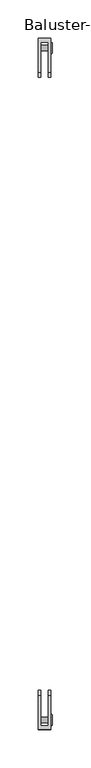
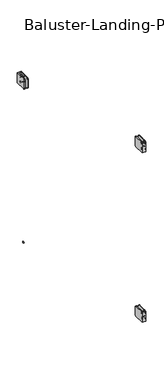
"""IFC4 building model written with IfcOpenShell, lengths in millimetres: railing geometry, Baluster-Landing-Panel-VIVA-BEACON-Lower : Standard_Glass."""

from ifc_helpers import new_model, si_unit, point, frame, origin, place, context, project, spatial, polyline, circle_curve, ellipse_curve, trimmed, outline, extrude, source, transform, mapped, element, save
from ifc_brep_helpers import plane_surface, cylinder_surface, revolved_surface, advanced_brep


def baluster_landing_panel_viva_beacon_lower_standard_glass_9d3ff82e(model_context):
    return source(origin(), model_context, "Body", "SolidModel", [
        extrude(outline(polyline([(-864.6905341, 973.286725), (-862.64357, 976.8321709), (-858.5496417, 976.8321709), (-856.5026775, 973.286725), (-858.5496417, 969.7412791), (-862.64357, 969.7412791), (-864.6905341, 973.286725)])), frame((46.904612, 0.0, 0.0), z_axis=(1.0, 0.0, 0.0), x_axis=(0.0, 1.0, 0.0)), (0.0, 0.0, 1.0), 1.4969696),
        advanced_brep(
        [(33.3375, -864.1420517, 973.286725), (33.3375, -857.0511599, 973.286725), (46.0375, -857.0511599, 973.286725), (46.0375, -864.1420517, 973.286725), (46.0375, -853.1888167, 973.286725), (46.0375, -868.0043949, 973.286725), (46.904612, -862.2526812, 973.286725), (46.904612, -858.9405304, 973.286725), (33.3375, -858.9405304, 973.286725), (33.3375, -862.2526812, 973.286725), (46.8723449, -868.0043949, 973.286725), (46.8723449, -853.1888167, 973.286725), (48.1536169, -854.4700888, 973.286725), (48.1536169, -866.7231229, 973.286725), (48.1536169, -856.2980103, 973.286725), (48.1536169, -864.8952014, 973.286725), (46.904612, -856.2980103, 973.286725), (46.904612, -864.8952014, 973.286725)],
        [
            (0, 1, circle_curve(frame((33.3375, -860.5966058, 973.286725), z_axis=(1.0, 0.0, 0.0), x_axis=(0.0, 1.0, 0.0)), 3.5454459)),
            (1, 2),
            (2, 3, circle_curve(frame((46.0375, -860.5966058, 973.286725), z_axis=(-1.0, 0.0, 0.0), x_axis=(0.0, 1.0, 0.0)), 3.5454459)),
            (3, 0),
            (1, 0, circle_curve(frame((33.3375, -860.5966058, 973.286725), z_axis=(1.0, 0.0, 0.0), x_axis=(0.0, 1.0, 0.0)), 3.5454459)),
            (3, 2, circle_curve(frame((46.0375, -860.5966058, 973.286725), z_axis=(-1.0, 0.0, 0.0), x_axis=(0.0, 1.0, 0.0)), 3.5454459)),
            (2, 4),
            (4, 5, circle_curve(frame((46.0375, -860.5966058, 973.286725), z_axis=(-1.0, 0.0, 0.0), x_axis=(0.0, 1.0, 0.0)), 7.4077891)),
            (5, 3),
            (5, 4, circle_curve(frame((46.0375, -860.5966058, 973.286725), z_axis=(-1.0, 0.0, 0.0), x_axis=(0.0, 1.0, 0.0)), 7.4077891)),
            (6, 7, circle_curve(frame((46.904612, -860.5966058, 973.286725), z_axis=(1.0, 0.0, 0.0), x_axis=(0.0, 1.0, 0.0)), 1.6560754)),
            (7, 8),
            (8, 9, circle_curve(frame((33.3375, -860.5966058, 973.286725), z_axis=(-1.0, 0.0, 0.0), x_axis=(0.0, 1.0, 0.0)), 1.6560754)),
            (9, 6),
            (7, 6, circle_curve(frame((46.904612, -860.5966058, 973.286725), z_axis=(1.0, 0.0, 0.0), x_axis=(0.0, 1.0, 0.0)), 1.6560754)),
            (9, 8, circle_curve(frame((33.3375, -860.5966058, 973.286725), z_axis=(-1.0, 0.0, 0.0), x_axis=(0.0, 1.0, 0.0)), 1.6560754)),
            (10, 11, circle_curve(frame((46.8723449, -860.5966058, 973.286725), z_axis=(1.0, 0.0, 0.0), x_axis=(0.0, 1.0, 0.0)), 7.4077891)),
            (11, 12, circle_curve(frame((46.8723449, -854.4700888, 973.286725), z_axis=(0.0, 0.0, -1.0), x_axis=(0.0, 1.0, 0.0)), 1.281272)),
            (12, 13, circle_curve(frame((48.1536169, -860.5966058, 973.286725), z_axis=(-1.0, 0.0, 0.0), x_axis=(0.0, 1.0, 0.0)), 6.1265171)),
            (13, 10, circle_curve(frame((46.8723449, -866.7231229, 973.286725), z_axis=(0.0, 0.0, -1.0), x_axis=(0.0, -1.0, 0.0)), 1.281272)),
            (11, 10, circle_curve(frame((46.8723449, -860.5966058, 973.286725), z_axis=(1.0, 0.0, 0.0), x_axis=(0.0, 1.0, 0.0)), 7.4077891)),
            (13, 12, circle_curve(frame((48.1536169, -860.5966058, 973.286725), z_axis=(-1.0, 0.0, 0.0), x_axis=(0.0, 1.0, 0.0)), 6.1265171)),
            (12, 14),
            (14, 15, circle_curve(frame((48.1536169, -860.5966058, 973.286725), z_axis=(-1.0, 0.0, 0.0), x_axis=(0.0, 1.0, 0.0)), 4.2985955)),
            (15, 13),
            (15, 14, circle_curve(frame((48.1536169, -860.5966058, 973.286725), z_axis=(-1.0, 0.0, 0.0), x_axis=(0.0, 1.0, 0.0)), 4.2985955)),
            (4, 11),
            (10, 5),
            (8, 1),
            (0, 9),
            (14, 16),
            (16, 17, circle_curve(frame((46.904612, -860.5966058, 973.286725), z_axis=(-1.0, 0.0, 0.0), x_axis=(0.0, 1.0, 0.0)), 4.2985955)),
            (17, 15),
            (17, 16, circle_curve(frame((46.904612, -860.5966058, 973.286725), z_axis=(-1.0, 0.0, 0.0), x_axis=(0.0, 1.0, 0.0)), 4.2985955)),
            (16, 7),
            (6, 17),
        ],
        [
            cylinder_surface(frame((42.5407669, -860.5966058, 973.286725), z_axis=(-1.0, 0.0, 0.0), x_axis=(0.0, 1.0, 0.0)), 3.5454459),
            plane_surface(frame((46.0375, -860.5966058, 973.286725), z_axis=(-1.0, 0.0, 0.0), x_axis=(0.0, 1.0, 0.0))),
            revolved_surface(polyline([(33.3375, -858.9405304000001, 973.286725), (46.904612, -858.9405304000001, 973.286725)]), (42.5407669, -860.5966058, 973.286725), (-1.0, 0.0, 0.0)),
            revolved_surface(trimmed(ellipse_curve(frame((46.8723449, -854.4700888, 973.286725), z_axis=(0.0, 0.0, 1.0), x_axis=(0.0, 1.0, 0.0)), 1.281272, 1.281272), [point((48.1536169, -854.4700888, 973.286725))], [point((46.8723449, -853.1888167, 973.286725))], True, "CARTESIAN"), (42.5407669, -860.5966058, 973.286725), (-1.0, 0.0, 0.0)),
            plane_surface(frame((48.1536169, -860.5966058, 973.286725), z_axis=(1.0, 0.0, 0.0), x_axis=(0.0, 1.0, 0.0))),
            cylinder_surface(frame((42.5407669, -860.5966058, 973.286725), z_axis=(-1.0, 0.0, 0.0), x_axis=(0.0, 1.0, 0.0)), 7.4077891),
            plane_surface(frame((33.3375, -860.5966058, 973.286725), z_axis=(-1.0, 0.0, 0.0), x_axis=(0.0, 1.0, 0.0))),
            revolved_surface(polyline([(46.904612, -856.2980103, 973.286725), (48.1536169, -856.2980103, 973.286725)]), (42.5407669, -860.5966058, 973.286725), (-1.0, 0.0, 0.0)),
            plane_surface(frame((46.904612, -860.5966058, 973.286725), z_axis=(1.0, 0.0, 0.0), x_axis=(0.0, 1.0, 0.0))),
        ],
        [
            (0, [[1, 2, 3, 4]]),
            (0, [[5, -4, 6, -2]]),
            (1, [[-3, 7, 8, 9]]),
            (1, [[-6, -9, 10, -7]]),
            (2, [[11, 12, 13, 14]]),
            (2, [[15, -14, 16, -12]]),
            (3, [[17, 18, 19, 20]]),
            (3, [[21, -20, 22, -18]]),
            (4, [[-19, 23, 24, 25]]),
            (4, [[-22, -25, 26, -23]]),
            (5, [[-8, 27, -17, 28]]),
            (5, [[-10, -28, -21, -27]]),
            (6, [[-13, 29, -1, 30]]),
            (6, [[-16, -30, -5, -29]]),
            (7, [[-24, 31, 32, 33]]),
            (7, [[-26, -33, 34, -31]]),
            (8, [[-32, 35, -11, 36]]),
            (8, [[-34, -36, -15, -35]]),
        ],
    ),
        advanced_brep(
        [(33.3375, -864.1420517, 948.680475), (33.3375, -857.0511599, 948.680475), (46.0375, -857.0511599, 948.680475), (46.0375, -864.1420517, 948.680475), (46.0375, -853.1888167, 948.680475), (46.0375, -868.0043949, 948.680475), (46.904612, -862.2526812, 948.680475), (46.904612, -858.9405304, 948.680475), (33.3375, -858.9405304, 948.680475), (33.3375, -862.2526812, 948.680475), (46.8723449, -868.0043949, 948.680475), (46.8723449, -853.1888167, 948.680475), (48.1536169, -854.4700888, 948.680475), (48.1536169, -866.7231229, 948.680475), (48.1536169, -856.2980103, 948.680475), (48.1536169, -864.8952014, 948.680475), (46.904612, -856.2980103, 948.680475), (46.904612, -864.8952014, 948.680475)],
        [
            (0, 1, circle_curve(frame((33.3375, -860.5966058, 948.680475), z_axis=(1.0, 0.0, 0.0), x_axis=(0.0, 1.0, 0.0)), 3.5454459)),
            (1, 2),
            (2, 3, circle_curve(frame((46.0375, -860.5966058, 948.680475), z_axis=(-1.0, 0.0, 0.0), x_axis=(0.0, 1.0, 0.0)), 3.5454459)),
            (3, 0),
            (1, 0, circle_curve(frame((33.3375, -860.5966058, 948.680475), z_axis=(1.0, 0.0, 0.0), x_axis=(0.0, 1.0, 0.0)), 3.5454459)),
            (3, 2, circle_curve(frame((46.0375, -860.5966058, 948.680475), z_axis=(-1.0, 0.0, 0.0), x_axis=(0.0, 1.0, 0.0)), 3.5454459)),
            (2, 4),
            (4, 5, circle_curve(frame((46.0375, -860.5966058, 948.680475), z_axis=(-1.0, 0.0, 0.0), x_axis=(0.0, 1.0, 0.0)), 7.4077891)),
            (5, 3),
            (5, 4, circle_curve(frame((46.0375, -860.5966058, 948.680475), z_axis=(-1.0, 0.0, 0.0), x_axis=(0.0, 1.0, 0.0)), 7.4077891)),
            (6, 7, circle_curve(frame((46.904612, -860.5966058, 948.680475), z_axis=(1.0, 0.0, 0.0), x_axis=(0.0, 1.0, 0.0)), 1.6560754)),
            (7, 8),
            (8, 9, circle_curve(frame((33.3375, -860.5966058, 948.680475), z_axis=(-1.0, 0.0, 0.0), x_axis=(0.0, 1.0, 0.0)), 1.6560754)),
            (9, 6),
            (7, 6, circle_curve(frame((46.904612, -860.5966058, 948.680475), z_axis=(1.0, 0.0, 0.0), x_axis=(0.0, 1.0, 0.0)), 1.6560754)),
            (9, 8, circle_curve(frame((33.3375, -860.5966058, 948.680475), z_axis=(-1.0, 0.0, 0.0), x_axis=(0.0, 1.0, 0.0)), 1.6560754)),
            (10, 11, circle_curve(frame((46.8723449, -860.5966058, 948.680475), z_axis=(1.0, 0.0, 0.0), x_axis=(0.0, 1.0, 0.0)), 7.4077891)),
            (11, 12, circle_curve(frame((46.8723449, -854.4700888, 948.680475), z_axis=(0.0, 0.0, -1.0), x_axis=(0.0, 1.0, 0.0)), 1.281272)),
            (12, 13, circle_curve(frame((48.1536169, -860.5966058, 948.680475), z_axis=(-1.0, 0.0, 0.0), x_axis=(0.0, 1.0, 0.0)), 6.1265171)),
            (13, 10, circle_curve(frame((46.8723449, -866.7231229, 948.680475), z_axis=(0.0, 0.0, -1.0), x_axis=(0.0, -1.0, 0.0)), 1.281272)),
            (11, 10, circle_curve(frame((46.8723449, -860.5966058, 948.680475), z_axis=(1.0, 0.0, 0.0), x_axis=(0.0, 1.0, 0.0)), 7.4077891)),
            (13, 12, circle_curve(frame((48.1536169, -860.5966058, 948.680475), z_axis=(-1.0, 0.0, 0.0), x_axis=(0.0, 1.0, 0.0)), 6.1265171)),
            (12, 14),
            (14, 15, circle_curve(frame((48.1536169, -860.5966058, 948.680475), z_axis=(-1.0, 0.0, 0.0), x_axis=(0.0, 1.0, 0.0)), 4.2985955)),
            (15, 13),
            (15, 14, circle_curve(frame((48.1536169, -860.5966058, 948.680475), z_axis=(-1.0, 0.0, 0.0), x_axis=(0.0, 1.0, 0.0)), 4.2985955)),
            (8, 1),
            (0, 9),
            (4, 11),
            (10, 5),
            (14, 16),
            (16, 17, circle_curve(frame((46.904612, -860.5966058, 948.680475), z_axis=(-1.0, 0.0, 0.0), x_axis=(0.0, 1.0, 0.0)), 4.2985955)),
            (17, 15),
            (17, 16, circle_curve(frame((46.904612, -860.5966058, 948.680475), z_axis=(-1.0, 0.0, 0.0), x_axis=(0.0, 1.0, 0.0)), 4.2985955)),
            (16, 7),
            (6, 17),
        ],
        [
            cylinder_surface(frame((42.5407669, -860.5966058, 948.680475), z_axis=(-1.0, 0.0, 0.0), x_axis=(0.0, 1.0, 0.0)), 3.5454459),
            plane_surface(frame((46.0375, -860.5966058, 948.680475), z_axis=(-1.0, 0.0, 0.0), x_axis=(0.0, 1.0, 0.0))),
            revolved_surface(polyline([(33.3375, -858.9405304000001, 948.680475), (46.904612, -858.9405304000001, 948.680475)]), (42.5407669, -860.5966058, 948.680475), (-1.0, 0.0, 0.0)),
            revolved_surface(trimmed(ellipse_curve(frame((46.8723449, -854.4700888, 948.680475), z_axis=(0.0, 0.0, 1.0), x_axis=(0.0, 1.0, 0.0)), 1.281272, 1.281272), [point((48.1536169, -854.4700888, 948.680475))], [point((46.8723449, -853.1888167, 948.680475))], True, "CARTESIAN"), (42.5407669, -860.5966058, 948.680475), (-1.0, 0.0, 0.0)),
            plane_surface(frame((48.1536169, -860.5966058, 948.680475), z_axis=(1.0, 0.0, 0.0), x_axis=(0.0, 1.0, 0.0))),
            plane_surface(frame((33.3375, -860.5966058, 948.680475), z_axis=(-1.0, 0.0, 0.0), x_axis=(0.0, 1.0, 0.0))),
            cylinder_surface(frame((42.5407669, -860.5966058, 948.680475), z_axis=(-1.0, 0.0, 0.0), x_axis=(0.0, 1.0, 0.0)), 7.4077891),
            revolved_surface(polyline([(46.904612, -856.2980103, 948.680475), (48.1536169, -856.2980103, 948.680475)]), (42.5407669, -860.5966058, 948.680475), (-1.0, 0.0, 0.0)),
            plane_surface(frame((46.904612, -860.5966058, 948.680475), z_axis=(1.0, 0.0, 0.0), x_axis=(0.0, 1.0, 0.0))),
        ],
        [
            (0, [[1, 2, 3, 4]]),
            (0, [[5, -4, 6, -2]]),
            (1, [[-3, 7, 8, 9]]),
            (1, [[-6, -9, 10, -7]]),
            (2, [[11, 12, 13, 14]]),
            (2, [[15, -14, 16, -12]]),
            (3, [[17, 18, 19, 20]]),
            (3, [[21, -20, 22, -18]]),
            (4, [[-19, 23, 24, 25]]),
            (4, [[-22, -25, 26, -23]]),
            (5, [[-13, 27, -1, 28]]),
            (5, [[-16, -28, -5, -27]]),
            (6, [[-8, 29, -17, 30]]),
            (6, [[-10, -30, -21, -29]]),
            (7, [[-24, 31, 32, 33]]),
            (7, [[-26, -33, 34, -31]]),
            (8, [[-32, 35, -11, 36]]),
            (8, [[-34, -36, -15, -35]]),
        ],
    ),
        extrude(outline(polyline([(-864.6905341, 948.680475), (-862.64357, 952.2259209), (-858.5496417, 952.2259209), (-856.5026775, 948.680475), (-858.5496417, 945.1350291), (-862.64357, 945.1350291), (-864.6905341, 948.680475)])), frame((46.904612, 0.0, 0.0), z_axis=(1.0, 0.0, 0.0), x_axis=(0.0, 1.0, 0.0)), (0.0, 0.0, 1.0), 1.4969696),
        advanced_brep(
        [(46.0375, -873.2299506, 983.2086), (46.0375, -873.2299506, 938.7586), (46.0375, -828.7799506, 938.7586), (46.0375, -822.4299506, 945.1086), (46.0375, -822.4299506, 976.8586), (46.0375, -828.7799506, 983.2086), (30.1625, -873.2299506, 983.2086), (30.1625, -828.7799506, 983.2086), (30.1625, -822.4299506, 976.8586), (30.1625, -822.4299506, 945.1086), (30.1625, -828.7799506, 938.7586), (30.1625, -873.2299506, 938.7586), (33.3375, -828.7799506, 938.7586), (33.3375, -868.5118702, 938.7586), (42.8625, -868.5118702, 938.7586), (42.8625, -828.7799506, 938.7586), (33.3375, -868.5118702, 983.2086), (42.8625, -868.5118702, 983.2086), (42.8625, -828.7799506, 983.2086), (42.8625, -822.4299506, 976.8586), (42.8625, -822.4299506, 945.1086), (33.3375, -822.4299506, 945.1086), (33.3375, -822.4299506, 976.8586), (33.3375, -828.7799506, 983.2086)],
        [
            (0, 1),
            (1, 2),
            (2, 3, circle_curve(frame((46.0375, -828.7799506, 945.1086), z_axis=(1.0, 0.0, 0.0), x_axis=(0.0, 1.0, 0.0)), 6.35)),
            (3, 4),
            (4, 5, circle_curve(frame((46.0375, -828.7799506, 976.8586), z_axis=(1.0, 0.0, 0.0), x_axis=(0.0, 1.0, 0.0)), 6.35)),
            (5, 0),
            (6, 7),
            (7, 8, circle_curve(frame((30.1625, -828.7799506, 976.8586), z_axis=(-1.0, 0.0, 0.0), x_axis=(0.0, 1.0, 0.0)), 6.35)),
            (8, 9),
            (9, 10, circle_curve(frame((30.1625, -828.7799506, 945.1086), z_axis=(-1.0, 0.0, 0.0), x_axis=(0.0, 1.0, 0.0)), 6.35)),
            (10, 11),
            (11, 6),
            (0, 6),
            (11, 1),
            (10, 12),
            (12, 13),
            (13, 14),
            (14, 15),
            (15, 2),
            (13, 16),
            (16, 17),
            (17, 14),
            (17, 18),
            (18, 19, circle_curve(frame((42.8625, -828.7799506, 976.8586), z_axis=(-1.0, 0.0, 0.0), x_axis=(0.0, 1.0, 0.0)), 6.35)),
            (19, 20),
            (20, 15, circle_curve(frame((42.8625, -828.7799506, 945.1086), z_axis=(-1.0, 0.0, 0.0), x_axis=(0.0, 1.0, 0.0)), 6.35)),
            (12, 21, circle_curve(frame((33.3375, -828.7799506, 945.1086), z_axis=(1.0, 0.0, 0.0), x_axis=(0.0, 1.0, 0.0)), 6.35)),
            (21, 22),
            (22, 23, circle_curve(frame((33.3375, -828.7799506, 976.8586), z_axis=(1.0, 0.0, 0.0), x_axis=(0.0, 1.0, 0.0)), 6.35)),
            (23, 16),
            (20, 3),
            (9, 21),
            (19, 4),
            (8, 22),
            (18, 5),
            (7, 23),
        ],
        [
            plane_surface(frame((46.0375, -873.2299506, 938.7586), z_axis=(1.0, 0.0, 0.0), x_axis=(0.0, 0.0, -1.0))),
            plane_surface(frame((30.1625, -873.2299506, 938.7586), z_axis=(-1.0, 0.0, 0.0), x_axis=(0.0, 0.0, 1.0))),
            plane_surface(frame((46.0375, -873.2299506, 983.2086), z_axis=(0.0, -1.0, 0.0), x_axis=(-1.0, 0.0, 0.0))),
            plane_surface(frame((46.0375, -873.2299506, 938.7586), z_axis=(0.0, 0.0, -1.0), x_axis=(-1.0, 0.0, 0.0))),
            plane_surface(frame((33.3375, -868.5118702, 995.9086), z_axis=(0.0, 1.0, 0.0), x_axis=(0.0, 0.0, -1.0))),
            plane_surface(frame((42.8625, -868.5118702, 995.9086), z_axis=(-1.0, 0.0, 0.0), x_axis=(0.0, 0.0, -1.0))),
            plane_surface(frame((33.3375, -809.7299506, 995.9086), z_axis=(1.0, 0.0, 0.0), x_axis=(0.0, 0.0, -1.0))),
            cylinder_surface(frame((30.1625, -828.7799506, 945.1086), z_axis=(1.0, 0.0, 0.0), x_axis=(0.0, 1.0, 0.0)), 6.35),
            plane_surface(frame((46.0375, -822.4299506, 945.1086), z_axis=(0.0, 1.0, 0.0), x_axis=(-1.0, 0.0, 0.0))),
            cylinder_surface(frame((30.1625, -828.7799506, 976.8586), z_axis=(1.0, 0.0, 0.0), x_axis=(0.0, 1.0, 0.0)), 6.35),
            plane_surface(frame((46.0375, -828.7799506, 983.2086), z_axis=(0.0, 0.0, 1.0), x_axis=(-1.0, 0.0, 0.0))),
        ],
        [
            (0, [[1, 2, 3, 4, 5, 6]]),
            (1, [[7, 8, 9, 10, 11, 12]]),
            (2, [[-1, 13, -12, 14]]),
            (3, [[-2, -14, -11, 15, 16, 17, 18, 19]]),
            (4, [[20, 21, 22, -17]]),
            (5, [[-22, 23, 24, 25, 26, -18]]),
            (6, [[-20, -16, 27, 28, 29, 30]]),
            (7, [[-3, -19, -26, 31]]),
            (7, [[-10, 32, -27, -15]]),
            (8, [[-4, -31, -25, 33]]),
            (8, [[-9, 34, -28, -32]]),
            (9, [[-5, -33, -24, 35]]),
            (9, [[-8, 36, -29, -34]]),
            (10, [[-6, -35, -23, -21, -30, -36, -7, -13]]),
        ],
    ),
        extrude(outline(polyline([(-864.6905341, 225.917125), (-862.64357, 229.4625709), (-858.5496417, 229.4625709), (-856.5026775, 225.917125), (-858.5496417, 222.3716791), (-862.64357, 222.3716791), (-864.6905341, 225.917125)])), frame((46.904612, 0.0, 0.0), z_axis=(1.0, 0.0, 0.0), x_axis=(0.0, 1.0, 0.0)), (0.0, 0.0, 1.0), 1.4969696),
        advanced_brep(
        [(33.3375, -864.1420517, 225.917125), (33.3375, -857.0511599, 225.917125), (46.0375, -857.0511599, 225.917125), (46.0375, -864.1420517, 225.917125), (46.0375, -853.1888167, 225.917125), (46.0375, -868.0043949, 225.917125), (46.904612, -862.2526812, 225.917125), (46.904612, -858.9405304, 225.917125), (33.3375, -858.9405304, 225.917125), (33.3375, -862.2526812, 225.917125), (46.8723449, -868.0043949, 225.917125), (46.8723449, -853.1888167, 225.917125), (48.1536169, -854.4700888, 225.917125), (48.1536169, -866.7231229, 225.917125), (48.1536169, -856.2980103, 225.917125), (48.1536169, -864.8952014, 225.917125), (46.904612, -856.2980103, 225.917125), (46.904612, -864.8952014, 225.917125)],
        [
            (0, 1, circle_curve(frame((33.3375, -860.5966058, 225.917125), z_axis=(1.0, 0.0, 0.0), x_axis=(0.0, 1.0, 0.0)), 3.5454459)),
            (1, 2),
            (2, 3, circle_curve(frame((46.0375, -860.5966058, 225.917125), z_axis=(-1.0, 0.0, 0.0), x_axis=(0.0, 1.0, 0.0)), 3.5454459)),
            (3, 0),
            (1, 0, circle_curve(frame((33.3375, -860.5966058, 225.917125), z_axis=(1.0, 0.0, 0.0), x_axis=(0.0, 1.0, 0.0)), 3.5454459)),
            (3, 2, circle_curve(frame((46.0375, -860.5966058, 225.917125), z_axis=(-1.0, 0.0, 0.0), x_axis=(0.0, 1.0, 0.0)), 3.5454459)),
            (2, 4),
            (4, 5, circle_curve(frame((46.0375, -860.5966058, 225.917125), z_axis=(-1.0, 0.0, 0.0), x_axis=(0.0, 1.0, 0.0)), 7.4077891)),
            (5, 3),
            (5, 4, circle_curve(frame((46.0375, -860.5966058, 225.917125), z_axis=(-1.0, 0.0, 0.0), x_axis=(0.0, 1.0, 0.0)), 7.4077891)),
            (6, 7, circle_curve(frame((46.904612, -860.5966058, 225.917125), z_axis=(1.0, 0.0, 0.0), x_axis=(0.0, 1.0, 0.0)), 1.6560754)),
            (7, 8),
            (8, 9, circle_curve(frame((33.3375, -860.5966058, 225.917125), z_axis=(-1.0, 0.0, 0.0), x_axis=(0.0, 1.0, 0.0)), 1.6560754)),
            (9, 6),
            (7, 6, circle_curve(frame((46.904612, -860.5966058, 225.917125), z_axis=(1.0, 0.0, 0.0), x_axis=(0.0, 1.0, 0.0)), 1.6560754)),
            (9, 8, circle_curve(frame((33.3375, -860.5966058, 225.917125), z_axis=(-1.0, 0.0, 0.0), x_axis=(0.0, 1.0, 0.0)), 1.6560754)),
            (10, 11, circle_curve(frame((46.8723449, -860.5966058, 225.917125), z_axis=(1.0, 0.0, 0.0), x_axis=(0.0, 1.0, 0.0)), 7.4077891)),
            (11, 12, circle_curve(frame((46.8723449, -854.4700888, 225.917125), z_axis=(0.0, 0.0, -1.0), x_axis=(0.0, 1.0, 0.0)), 1.281272)),
            (12, 13, circle_curve(frame((48.1536169, -860.5966058, 225.917125), z_axis=(-1.0, 0.0, 0.0), x_axis=(0.0, 1.0, 0.0)), 6.1265171)),
            (13, 10, circle_curve(frame((46.8723449, -866.7231229, 225.917125), z_axis=(0.0, 0.0, -1.0), x_axis=(0.0, -1.0, 0.0)), 1.281272)),
            (11, 10, circle_curve(frame((46.8723449, -860.5966058, 225.917125), z_axis=(1.0, 0.0, 0.0), x_axis=(0.0, 1.0, 0.0)), 7.4077891)),
            (13, 12, circle_curve(frame((48.1536169, -860.5966058, 225.917125), z_axis=(-1.0, 0.0, 0.0), x_axis=(0.0, 1.0, 0.0)), 6.1265171)),
            (12, 14),
            (14, 15, circle_curve(frame((48.1536169, -860.5966058, 225.917125), z_axis=(-1.0, 0.0, 0.0), x_axis=(0.0, 1.0, 0.0)), 4.2985955)),
            (15, 13),
            (15, 14, circle_curve(frame((48.1536169, -860.5966058, 225.917125), z_axis=(-1.0, 0.0, 0.0), x_axis=(0.0, 1.0, 0.0)), 4.2985955)),
            (4, 11),
            (10, 5),
            (8, 1),
            (0, 9),
            (14, 16),
            (16, 17, circle_curve(frame((46.904612, -860.5966058, 225.917125), z_axis=(-1.0, 0.0, 0.0), x_axis=(0.0, 1.0, 0.0)), 4.2985955)),
            (17, 15),
            (17, 16, circle_curve(frame((46.904612, -860.5966058, 225.917125), z_axis=(-1.0, 0.0, 0.0), x_axis=(0.0, 1.0, 0.0)), 4.2985955)),
            (16, 7),
            (6, 17),
        ],
        [
            cylinder_surface(frame((42.5407669, -860.5966058, 225.917125), z_axis=(-1.0, 0.0, 0.0), x_axis=(0.0, 1.0, 0.0)), 3.5454459),
            plane_surface(frame((46.0375, -860.5966058, 225.917125), z_axis=(-1.0, 0.0, 0.0), x_axis=(0.0, 1.0, 0.0))),
            revolved_surface(polyline([(33.3375, -858.9405304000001, 225.917125), (46.904612, -858.9405304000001, 225.917125)]), (42.5407669, -860.5966058, 225.917125), (-1.0, 0.0, 0.0)),
            revolved_surface(trimmed(ellipse_curve(frame((46.8723449, -854.4700888, 225.917125), z_axis=(0.0, 0.0, 1.0), x_axis=(0.0, 1.0, 0.0)), 1.281272, 1.281272), [point((48.1536169, -854.4700888, 225.917125))], [point((46.8723449, -853.1888167, 225.917125))], True, "CARTESIAN"), (42.5407669, -860.5966058, 225.917125), (-1.0, 0.0, 0.0)),
            plane_surface(frame((48.1536169, -860.5966058, 225.917125), z_axis=(1.0, 0.0, 0.0), x_axis=(0.0, 1.0, 0.0))),
            cylinder_surface(frame((42.5407669, -860.5966058, 225.917125), z_axis=(-1.0, 0.0, 0.0), x_axis=(0.0, 1.0, 0.0)), 7.4077891),
            plane_surface(frame((33.3375, -860.5966058, 225.917125), z_axis=(-1.0, 0.0, 0.0), x_axis=(0.0, 1.0, 0.0))),
            revolved_surface(polyline([(46.904612, -856.2980103, 225.917125), (48.1536169, -856.2980103, 225.917125)]), (42.5407669, -860.5966058, 225.917125), (-1.0, 0.0, 0.0)),
            plane_surface(frame((46.904612, -860.5966058, 225.917125), z_axis=(1.0, 0.0, 0.0), x_axis=(0.0, 1.0, 0.0))),
        ],
        [
            (0, [[1, 2, 3, 4]]),
            (0, [[5, -4, 6, -2]]),
            (1, [[-3, 7, 8, 9]]),
            (1, [[-6, -9, 10, -7]]),
            (2, [[11, 12, 13, 14]]),
            (2, [[15, -14, 16, -12]]),
            (3, [[17, 18, 19, 20]]),
            (3, [[21, -20, 22, -18]]),
            (4, [[-19, 23, 24, 25]]),
            (4, [[-22, -25, 26, -23]]),
            (5, [[-8, 27, -17, 28]]),
            (5, [[-10, -28, -21, -27]]),
            (6, [[-13, 29, -1, 30]]),
            (6, [[-16, -30, -5, -29]]),
            (7, [[-24, 31, 32, 33]]),
            (7, [[-26, -33, 34, -31]]),
            (8, [[-32, 35, -11, 36]]),
            (8, [[-34, -36, -15, -35]]),
        ],
    ),
        advanced_brep(
        [(33.3375, -864.1420517, 201.310875), (33.3375, -857.0511599, 201.310875), (46.0375, -857.0511599, 201.310875), (46.0375, -864.1420517, 201.310875), (46.0375, -853.1888167, 201.310875), (46.0375, -868.0043949, 201.310875), (46.904612, -862.2526812, 201.310875), (46.904612, -858.9405304, 201.310875), (33.3375, -858.9405304, 201.310875), (33.3375, -862.2526812, 201.310875), (46.8723449, -868.0043949, 201.310875), (46.8723449, -853.1888167, 201.310875), (48.1536169, -854.4700888, 201.310875), (48.1536169, -866.7231229, 201.310875), (48.1536169, -856.2980103, 201.310875), (48.1536169, -864.8952014, 201.310875), (46.904612, -856.2980103, 201.310875), (46.904612, -864.8952014, 201.310875)],
        [
            (0, 1, circle_curve(frame((33.3375, -860.5966058, 201.310875), z_axis=(1.0, 0.0, 0.0), x_axis=(0.0, 1.0, 0.0)), 3.5454459)),
            (1, 2),
            (2, 3, circle_curve(frame((46.0375, -860.5966058, 201.310875), z_axis=(-1.0, 0.0, 0.0), x_axis=(0.0, 1.0, 0.0)), 3.5454459)),
            (3, 0),
            (1, 0, circle_curve(frame((33.3375, -860.5966058, 201.310875), z_axis=(1.0, 0.0, 0.0), x_axis=(0.0, 1.0, 0.0)), 3.5454459)),
            (3, 2, circle_curve(frame((46.0375, -860.5966058, 201.310875), z_axis=(-1.0, 0.0, 0.0), x_axis=(0.0, 1.0, 0.0)), 3.5454459)),
            (2, 4),
            (4, 5, circle_curve(frame((46.0375, -860.5966058, 201.310875), z_axis=(-1.0, 0.0, 0.0), x_axis=(0.0, 1.0, 0.0)), 7.4077891)),
            (5, 3),
            (5, 4, circle_curve(frame((46.0375, -860.5966058, 201.310875), z_axis=(-1.0, 0.0, 0.0), x_axis=(0.0, 1.0, 0.0)), 7.4077891)),
            (6, 7, circle_curve(frame((46.904612, -860.5966058, 201.310875), z_axis=(1.0, 0.0, 0.0), x_axis=(0.0, 1.0, 0.0)), 1.6560754)),
            (7, 8),
            (8, 9, circle_curve(frame((33.3375, -860.5966058, 201.310875), z_axis=(-1.0, 0.0, 0.0), x_axis=(0.0, 1.0, 0.0)), 1.6560754)),
            (9, 6),
            (7, 6, circle_curve(frame((46.904612, -860.5966058, 201.310875), z_axis=(1.0, 0.0, 0.0), x_axis=(0.0, 1.0, 0.0)), 1.6560754)),
            (9, 8, circle_curve(frame((33.3375, -860.5966058, 201.310875), z_axis=(-1.0, 0.0, 0.0), x_axis=(0.0, 1.0, 0.0)), 1.6560754)),
            (10, 11, circle_curve(frame((46.8723449, -860.5966058, 201.310875), z_axis=(1.0, 0.0, 0.0), x_axis=(0.0, 1.0, 0.0)), 7.4077891)),
            (11, 12, circle_curve(frame((46.8723449, -854.4700888, 201.310875), z_axis=(0.0, 0.0, -1.0), x_axis=(0.0, 1.0, 0.0)), 1.281272)),
            (12, 13, circle_curve(frame((48.1536169, -860.5966058, 201.310875), z_axis=(-1.0, 0.0, 0.0), x_axis=(0.0, 1.0, 0.0)), 6.1265171)),
            (13, 10, circle_curve(frame((46.8723449, -866.7231229, 201.310875), z_axis=(0.0, 0.0, -1.0), x_axis=(0.0, -1.0, 0.0)), 1.281272)),
            (11, 10, circle_curve(frame((46.8723449, -860.5966058, 201.310875), z_axis=(1.0, 0.0, 0.0), x_axis=(0.0, 1.0, 0.0)), 7.4077891)),
            (13, 12, circle_curve(frame((48.1536169, -860.5966058, 201.310875), z_axis=(-1.0, 0.0, 0.0), x_axis=(0.0, 1.0, 0.0)), 6.1265171)),
            (12, 14),
            (14, 15, circle_curve(frame((48.1536169, -860.5966058, 201.310875), z_axis=(-1.0, 0.0, 0.0), x_axis=(0.0, 1.0, 0.0)), 4.2985955)),
            (15, 13),
            (15, 14, circle_curve(frame((48.1536169, -860.5966058, 201.310875), z_axis=(-1.0, 0.0, 0.0), x_axis=(0.0, 1.0, 0.0)), 4.2985955)),
            (8, 1),
            (0, 9),
            (4, 11),
            (10, 5),
            (14, 16),
            (16, 17, circle_curve(frame((46.904612, -860.5966058, 201.310875), z_axis=(-1.0, 0.0, 0.0), x_axis=(0.0, 1.0, 0.0)), 4.2985955)),
            (17, 15),
            (17, 16, circle_curve(frame((46.904612, -860.5966058, 201.310875), z_axis=(-1.0, 0.0, 0.0), x_axis=(0.0, 1.0, 0.0)), 4.2985955)),
            (16, 7),
            (6, 17),
        ],
        [
            cylinder_surface(frame((42.5407669, -860.5966058, 201.310875), z_axis=(-1.0, 0.0, 0.0), x_axis=(0.0, 1.0, 0.0)), 3.5454459),
            plane_surface(frame((46.0375, -860.5966058, 201.310875), z_axis=(-1.0, 0.0, 0.0), x_axis=(0.0, 1.0, 0.0))),
            revolved_surface(polyline([(33.3375, -858.9405304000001, 201.310875), (46.904612, -858.9405304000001, 201.310875)]), (42.5407669, -860.5966058, 201.310875), (-1.0, 0.0, 0.0)),
            revolved_surface(trimmed(ellipse_curve(frame((46.8723449, -854.4700888, 201.310875), z_axis=(0.0, 0.0, 1.0), x_axis=(0.0, 1.0, 0.0)), 1.281272, 1.281272), [point((48.1536169, -854.4700888, 201.310875))], [point((46.8723449, -853.1888167, 201.310875))], True, "CARTESIAN"), (42.5407669, -860.5966058, 201.310875), (-1.0, 0.0, 0.0)),
            plane_surface(frame((48.1536169, -860.5966058, 201.310875), z_axis=(1.0, 0.0, 0.0), x_axis=(0.0, 1.0, 0.0))),
            plane_surface(frame((33.3375, -860.5966058, 201.310875), z_axis=(-1.0, 0.0, 0.0), x_axis=(0.0, 1.0, 0.0))),
            cylinder_surface(frame((42.5407669, -860.5966058, 201.310875), z_axis=(-1.0, 0.0, 0.0), x_axis=(0.0, 1.0, 0.0)), 7.4077891),
            revolved_surface(polyline([(46.904612, -856.2980103, 201.310875), (48.1536169, -856.2980103, 201.310875)]), (42.5407669, -860.5966058, 201.310875), (-1.0, 0.0, 0.0)),
            plane_surface(frame((46.904612, -860.5966058, 201.310875), z_axis=(1.0, 0.0, 0.0), x_axis=(0.0, 1.0, 0.0))),
        ],
        [
            (0, [[1, 2, 3, 4]]),
            (0, [[5, -4, 6, -2]]),
            (1, [[-3, 7, 8, 9]]),
            (1, [[-6, -9, 10, -7]]),
            (2, [[11, 12, 13, 14]]),
            (2, [[15, -14, 16, -12]]),
            (3, [[17, 18, 19, 20]]),
            (3, [[21, -20, 22, -18]]),
            (4, [[-19, 23, 24, 25]]),
            (4, [[-22, -25, 26, -23]]),
            (5, [[-13, 27, -1, 28]]),
            (5, [[-16, -28, -5, -27]]),
            (6, [[-8, 29, -17, 30]]),
            (6, [[-10, -30, -21, -29]]),
            (7, [[-24, 31, 32, 33]]),
            (7, [[-26, -33, 34, -31]]),
            (8, [[-32, 35, -11, 36]]),
            (8, [[-34, -36, -15, -35]]),
        ],
    ),
        extrude(outline(polyline([(-864.6905341, 201.310875), (-862.64357, 204.8563209), (-858.5496417, 204.8563209), (-856.5026775, 201.310875), (-858.5496417, 197.7654291), (-862.64357, 197.7654291), (-864.6905341, 201.310875)])), frame((46.904612, 0.0, 0.0), z_axis=(1.0, 0.0, 0.0), x_axis=(0.0, 1.0, 0.0)), (0.0, 0.0, 1.0), 1.4969696),
        advanced_brep(
        [(46.0375, -873.2299506, 235.839), (46.0375, -873.2299506, 191.389), (46.0375, -828.7799506, 191.389), (46.0375, -822.4299506, 197.739), (46.0375, -822.4299506, 229.489), (46.0375, -828.7799506, 235.839), (30.1625, -873.2299506, 235.839), (30.1625, -828.7799506, 235.839), (30.1625, -822.4299506, 229.489), (30.1625, -822.4299506, 197.739), (30.1625, -828.7799506, 191.389), (30.1625, -873.2299506, 191.389), (33.3375, -828.7799506, 191.389), (33.3375, -868.5118702, 191.389), (42.8625, -868.5118702, 191.389), (42.8625, -828.7799506, 191.389), (33.3375, -868.5118702, 235.839), (42.8625, -868.5118702, 235.839), (42.8625, -828.7799506, 235.839), (42.8625, -822.4299506, 229.489), (42.8625, -822.4299506, 197.739), (33.3375, -822.4299506, 197.739), (33.3375, -822.4299506, 229.489), (33.3375, -828.7799506, 235.839)],
        [
            (0, 1),
            (1, 2),
            (2, 3, circle_curve(frame((46.0375, -828.7799506, 197.739), z_axis=(1.0, 0.0, 0.0), x_axis=(0.0, 1.0, 0.0)), 6.35)),
            (3, 4),
            (4, 5, circle_curve(frame((46.0375, -828.7799506, 229.489), z_axis=(1.0, 0.0, 0.0), x_axis=(0.0, 1.0, 0.0)), 6.35)),
            (5, 0),
            (6, 7),
            (7, 8, circle_curve(frame((30.1625, -828.7799506, 229.489), z_axis=(-1.0, 0.0, 0.0), x_axis=(0.0, 1.0, 0.0)), 6.35)),
            (8, 9),
            (9, 10, circle_curve(frame((30.1625, -828.7799506, 197.739), z_axis=(-1.0, 0.0, 0.0), x_axis=(0.0, 1.0, 0.0)), 6.35)),
            (10, 11),
            (11, 6),
            (0, 6),
            (11, 1),
            (10, 12),
            (12, 13),
            (13, 14),
            (14, 15),
            (15, 2),
            (13, 16),
            (16, 17),
            (17, 14),
            (17, 18),
            (18, 19, circle_curve(frame((42.8625, -828.7799506, 229.489), z_axis=(-1.0, 0.0, 0.0), x_axis=(0.0, 1.0, 0.0)), 6.35)),
            (19, 20),
            (20, 15, circle_curve(frame((42.8625, -828.7799506, 197.739), z_axis=(-1.0, 0.0, 0.0), x_axis=(0.0, 1.0, 0.0)), 6.35)),
            (12, 21, circle_curve(frame((33.3375, -828.7799506, 197.739), z_axis=(1.0, 0.0, 0.0), x_axis=(0.0, 1.0, 0.0)), 6.35)),
            (21, 22),
            (22, 23, circle_curve(frame((33.3375, -828.7799506, 229.489), z_axis=(1.0, 0.0, 0.0), x_axis=(0.0, 1.0, 0.0)), 6.35)),
            (23, 16),
            (20, 3),
            (9, 21),
            (19, 4),
            (8, 22),
            (18, 5),
            (7, 23),
        ],
        [
            plane_surface(frame((46.0375, -873.2299506, 191.389), z_axis=(1.0, 0.0, 0.0), x_axis=(0.0, 0.0, -1.0))),
            plane_surface(frame((30.1625, -873.2299506, 191.389), z_axis=(-1.0, 0.0, 0.0), x_axis=(0.0, 0.0, 1.0))),
            plane_surface(frame((46.0375, -873.2299506, 235.839), z_axis=(0.0, -1.0, 0.0), x_axis=(-1.0, 0.0, 0.0))),
            plane_surface(frame((46.0375, -873.2299506, 191.389), z_axis=(0.0, 0.0, -1.0), x_axis=(-1.0, 0.0, 0.0))),
            plane_surface(frame((33.3375, -868.5118702, 248.539), z_axis=(0.0, 1.0, 0.0), x_axis=(0.0, 0.0, -1.0))),
            plane_surface(frame((42.8625, -868.5118702, 248.539), z_axis=(-1.0, 0.0, 0.0), x_axis=(0.0, 0.0, -1.0))),
            plane_surface(frame((33.3375, -809.7299506, 248.539), z_axis=(1.0, 0.0, 0.0), x_axis=(0.0, 0.0, -1.0))),
            cylinder_surface(frame((30.1625, -828.7799506, 197.739), z_axis=(1.0, 0.0, 0.0), x_axis=(0.0, 1.0, 0.0)), 6.35),
            plane_surface(frame((46.0375, -822.4299506, 197.739), z_axis=(0.0, 1.0, 0.0), x_axis=(-1.0, 0.0, 0.0))),
            cylinder_surface(frame((30.1625, -828.7799506, 229.489), z_axis=(1.0, 0.0, 0.0), x_axis=(0.0, 1.0, 0.0)), 6.35),
            plane_surface(frame((46.0375, -828.7799506, 235.839), z_axis=(0.0, 0.0, 1.0), x_axis=(-1.0, 0.0, 0.0))),
        ],
        [
            (0, [[1, 2, 3, 4, 5, 6]]),
            (1, [[7, 8, 9, 10, 11, 12]]),
            (2, [[-1, 13, -12, 14]]),
            (3, [[-2, -14, -11, 15, 16, 17, 18, 19]]),
            (4, [[20, 21, 22, -17]]),
            (5, [[-22, 23, 24, 25, 26, -18]]),
            (6, [[-20, -16, 27, 28, 29, 30]]),
            (7, [[-3, -19, -26, 31]]),
            (7, [[-10, 32, -27, -15]]),
            (8, [[-4, -31, -25, 33]]),
            (8, [[-9, 34, -28, -32]]),
            (9, [[-5, -33, -24, 35]]),
            (9, [[-8, 36, -29, -34]]),
            (10, [[-6, -35, -23, -21, -30, -36, -7, -13]]),
        ],
    ),
        extrude(outline(polyline([(18.4480835, 736.5329842), (16.4011194, 732.9875382), (12.3071911, 732.9875382), (10.2602269, 736.5329842), (12.3071911, 740.0784301), (16.4011194, 740.0784301), (18.4480835, 736.5329842)])), frame((46.904612, 0.0, 0.0), z_axis=(1.0, 0.0, 0.0), x_axis=(0.0, 1.0, 0.0)), (0.0, 0.0, 1.0), 1.4969696),
        advanced_brep(
        [(33.3375, 17.8996011, 736.5329842), (46.0375, 17.8996011, 736.5329842), (46.0375, 10.8087093, 736.5329842), (33.3375, 10.8087093, 736.5329842), (46.0375, 21.7619443, 736.5329842), (46.0375, 6.9463661, 736.5329842), (46.904612, 16.0102306, 736.5329842), (33.3375, 16.0102306, 736.5329842), (33.3375, 12.6980798, 736.5329842), (46.904612, 12.6980798, 736.5329842), (46.8723449, 21.7619443, 736.5329842), (48.1536169, 20.4806723, 736.5329842), (48.1536169, 8.2276382, 736.5329842), (46.8723449, 6.9463661, 736.5329842), (48.1536169, 18.6527508, 736.5329842), (48.1536169, 10.0555597, 736.5329842), (46.904612, 18.6527508, 736.5329842), (46.904612, 10.0555597, 736.5329842)],
        [
            (0, 1),
            (1, 2, circle_curve(frame((46.0375, 14.3541552, 736.5329842), z_axis=(-1.0, 0.0, 0.0), x_axis=(0.0, -1.0, 0.0)), 3.5454459)),
            (2, 3),
            (3, 0, circle_curve(frame((33.3375, 14.3541552, 736.5329842), z_axis=(1.0, 0.0, 0.0), x_axis=(0.0, -1.0, 0.0)), 3.5454459)),
            (2, 1, circle_curve(frame((46.0375, 14.3541552, 736.5329842), z_axis=(-1.0, 0.0, 0.0), x_axis=(0.0, -1.0, 0.0)), 3.5454459)),
            (0, 3, circle_curve(frame((33.3375, 14.3541552, 736.5329842), z_axis=(1.0, 0.0, 0.0), x_axis=(0.0, -1.0, 0.0)), 3.5454459)),
            (1, 4),
            (4, 5, circle_curve(frame((46.0375, 14.3541552, 736.5329842), z_axis=(-1.0, 0.0, 0.0), x_axis=(0.0, -1.0, 0.0)), 7.4077891)),
            (5, 2),
            (5, 4, circle_curve(frame((46.0375, 14.3541552, 736.5329842), z_axis=(-1.0, 0.0, 0.0), x_axis=(0.0, -1.0, 0.0)), 7.4077891)),
            (6, 7),
            (7, 8, circle_curve(frame((33.3375, 14.3541552, 736.5329842), z_axis=(-1.0, 0.0, 0.0), x_axis=(0.0, -1.0, 0.0)), 1.6560754)),
            (8, 9),
            (9, 6, circle_curve(frame((46.904612, 14.3541552, 736.5329842), z_axis=(1.0, 0.0, 0.0), x_axis=(0.0, -1.0, 0.0)), 1.6560754)),
            (8, 7, circle_curve(frame((33.3375, 14.3541552, 736.5329842), z_axis=(-1.0, 0.0, 0.0), x_axis=(0.0, -1.0, 0.0)), 1.6560754)),
            (6, 9, circle_curve(frame((46.904612, 14.3541552, 736.5329842), z_axis=(1.0, 0.0, 0.0), x_axis=(0.0, -1.0, 0.0)), 1.6560754)),
            (10, 11, circle_curve(frame((46.8723449, 20.4806723, 736.5329842), z_axis=(0.0, 0.0, -1.0), x_axis=(0.0, 1.0, 0.0)), 1.281272)),
            (11, 12, circle_curve(frame((48.1536169, 14.3541552, 736.5329842), z_axis=(-1.0, 0.0, 0.0), x_axis=(0.0, -1.0, 0.0)), 6.1265171)),
            (12, 13, circle_curve(frame((46.8723449, 8.2276382, 736.5329842), z_axis=(0.0, 0.0, -1.0), x_axis=(0.0, -1.0, 0.0)), 1.281272)),
            (13, 10, circle_curve(frame((46.8723449, 14.3541552, 736.5329842), z_axis=(1.0, 0.0, 0.0), x_axis=(0.0, -1.0, 0.0)), 7.4077891)),
            (12, 11, circle_curve(frame((48.1536169, 14.3541552, 736.5329842), z_axis=(-1.0, 0.0, 0.0), x_axis=(0.0, -1.0, 0.0)), 6.1265171)),
            (10, 13, circle_curve(frame((46.8723449, 14.3541552, 736.5329842), z_axis=(1.0, 0.0, 0.0), x_axis=(0.0, -1.0, 0.0)), 7.4077891)),
            (11, 14),
            (14, 15, circle_curve(frame((48.1536169, 14.3541552, 736.5329842), z_axis=(-1.0, 0.0, 0.0), x_axis=(0.0, -1.0, 0.0)), 4.2985955)),
            (15, 12),
            (15, 14, circle_curve(frame((48.1536169, 14.3541552, 736.5329842), z_axis=(-1.0, 0.0, 0.0), x_axis=(0.0, -1.0, 0.0)), 4.2985955)),
            (4, 10),
            (13, 5),
            (7, 0),
            (3, 8),
            (14, 16),
            (16, 17, circle_curve(frame((46.904612, 14.3541552, 736.5329842), z_axis=(-1.0, 0.0, 0.0), x_axis=(0.0, -1.0, 0.0)), 4.2985955)),
            (17, 15),
            (17, 16, circle_curve(frame((46.904612, 14.3541552, 736.5329842), z_axis=(-1.0, 0.0, 0.0), x_axis=(0.0, -1.0, 0.0)), 4.2985955)),
            (16, 6),
            (9, 17),
        ],
        [
            cylinder_surface(frame((42.5407669, 14.3541552, 736.5329842), z_axis=(-1.0, 0.0, 0.0), x_axis=(0.0, -1.0, 0.0)), 3.5454459),
            plane_surface(frame((46.0375, 14.3541552, 736.5329842), z_axis=(-1.0, 0.0, 0.0), x_axis=(0.0, -1.0, 0.0))),
            revolved_surface(polyline([(33.3375, 12.698079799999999, 736.5329842), (46.904612, 12.698079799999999, 736.5329842)]), (42.5407669, 14.3541552, 736.5329842), (-1.0, 0.0, 0.0)),
            revolved_surface(trimmed(ellipse_curve(frame((46.8723449, 8.2276382, 736.5329842), z_axis=(0.0, 0.0, -1.0), x_axis=(0.0, -1.0, 0.0)), 1.281272, 1.281272), [point((48.1536169, 8.2276382, 736.5329842))], [point((46.8723449, 6.9463661, 736.5329842))], True, "CARTESIAN"), (42.5407669, 14.3541552, 736.5329842), (-1.0, 0.0, 0.0)),
            plane_surface(frame((48.1536169, 14.3541552, 736.5329842), z_axis=(1.0, 0.0, 0.0), x_axis=(0.0, -1.0, 0.0))),
            cylinder_surface(frame((42.5407669, 14.3541552, 736.5329842), z_axis=(-1.0, 0.0, 0.0), x_axis=(0.0, -1.0, 0.0)), 7.4077891),
            plane_surface(frame((33.3375, 14.3541552, 736.5329842), z_axis=(-1.0, 0.0, 0.0), x_axis=(0.0, -1.0, 0.0))),
            revolved_surface(polyline([(46.904612, 10.0555597, 736.5329842), (48.1536169, 10.0555597, 736.5329842)]), (42.5407669, 14.3541552, 736.5329842), (-1.0, 0.0, 0.0)),
            plane_surface(frame((46.904612, 14.3541552, 736.5329842), z_axis=(1.0, 0.0, 0.0), x_axis=(0.0, -1.0, 0.0))),
        ],
        [
            (0, [[1, 2, 3, 4]]),
            (0, [[-3, 5, -1, 6]]),
            (1, [[7, 8, 9, -2]]),
            (1, [[-9, 10, -7, -5]]),
            (2, [[11, 12, 13, 14]]),
            (2, [[-13, 15, -11, 16]]),
            (3, [[17, 18, 19, 20]]),
            (3, [[-19, 21, -17, 22]]),
            (4, [[23, 24, 25, -18]]),
            (4, [[-25, 26, -23, -21]]),
            (5, [[27, -20, 28, -8]]),
            (5, [[-28, -22, -27, -10]]),
            (6, [[29, -4, 30, -12]]),
            (6, [[-30, -6, -29, -15]]),
            (7, [[31, 32, 33, -24]]),
            (7, [[-33, 34, -31, -26]]),
            (8, [[35, -14, 36, -32]]),
            (8, [[-36, -16, -35, -34]]),
        ],
    ),
        advanced_brep(
        [(33.3375, 17.8996011, 711.9267342), (46.0375, 17.8996011, 711.9267342), (46.0375, 10.8087093, 711.9267342), (33.3375, 10.8087093, 711.9267342), (46.0375, 21.7619443, 711.9267342), (46.0375, 6.9463661, 711.9267342), (46.904612, 16.0102306, 711.9267342), (33.3375, 16.0102306, 711.9267342), (33.3375, 12.6980798, 711.9267342), (46.904612, 12.6980798, 711.9267342), (46.8723449, 21.7619443, 711.9267342), (48.1536169, 20.4806723, 711.9267342), (48.1536169, 8.2276382, 711.9267342), (46.8723449, 6.9463661, 711.9267342), (48.1536169, 18.6527508, 711.9267342), (48.1536169, 10.0555597, 711.9267342), (46.904612, 18.6527508, 711.9267342), (46.904612, 10.0555597, 711.9267342)],
        [
            (0, 1),
            (1, 2, circle_curve(frame((46.0375, 14.3541552, 711.9267342), z_axis=(-1.0, 0.0, 0.0), x_axis=(0.0, -1.0, 0.0)), 3.5454459)),
            (2, 3),
            (3, 0, circle_curve(frame((33.3375, 14.3541552, 711.9267342), z_axis=(1.0, 0.0, 0.0), x_axis=(0.0, -1.0, 0.0)), 3.5454459)),
            (2, 1, circle_curve(frame((46.0375, 14.3541552, 711.9267342), z_axis=(-1.0, 0.0, 0.0), x_axis=(0.0, -1.0, 0.0)), 3.5454459)),
            (0, 3, circle_curve(frame((33.3375, 14.3541552, 711.9267342), z_axis=(1.0, 0.0, 0.0), x_axis=(0.0, -1.0, 0.0)), 3.5454459)),
            (1, 4),
            (4, 5, circle_curve(frame((46.0375, 14.3541552, 711.9267342), z_axis=(-1.0, 0.0, 0.0), x_axis=(0.0, -1.0, 0.0)), 7.4077891)),
            (5, 2),
            (5, 4, circle_curve(frame((46.0375, 14.3541552, 711.9267342), z_axis=(-1.0, 0.0, 0.0), x_axis=(0.0, -1.0, 0.0)), 7.4077891)),
            (6, 7),
            (7, 8, circle_curve(frame((33.3375, 14.3541552, 711.9267342), z_axis=(-1.0, 0.0, 0.0), x_axis=(0.0, -1.0, 0.0)), 1.6560754)),
            (8, 9),
            (9, 6, circle_curve(frame((46.904612, 14.3541552, 711.9267342), z_axis=(1.0, 0.0, 0.0), x_axis=(0.0, -1.0, 0.0)), 1.6560754)),
            (8, 7, circle_curve(frame((33.3375, 14.3541552, 711.9267342), z_axis=(-1.0, 0.0, 0.0), x_axis=(0.0, -1.0, 0.0)), 1.6560754)),
            (6, 9, circle_curve(frame((46.904612, 14.3541552, 711.9267342), z_axis=(1.0, 0.0, 0.0), x_axis=(0.0, -1.0, 0.0)), 1.6560754)),
            (10, 11, circle_curve(frame((46.8723449, 20.4806723, 711.9267342), z_axis=(0.0, 0.0, -1.0), x_axis=(0.0, 1.0, 0.0)), 1.281272)),
            (11, 12, circle_curve(frame((48.1536169, 14.3541552, 711.9267342), z_axis=(-1.0, 0.0, 0.0), x_axis=(0.0, -1.0, 0.0)), 6.1265171)),
            (12, 13, circle_curve(frame((46.8723449, 8.2276382, 711.9267342), z_axis=(0.0, 0.0, -1.0), x_axis=(0.0, -1.0, 0.0)), 1.281272)),
            (13, 10, circle_curve(frame((46.8723449, 14.3541552, 711.9267342), z_axis=(1.0, 0.0, 0.0), x_axis=(0.0, -1.0, 0.0)), 7.4077891)),
            (12, 11, circle_curve(frame((48.1536169, 14.3541552, 711.9267342), z_axis=(-1.0, 0.0, 0.0), x_axis=(0.0, -1.0, 0.0)), 6.1265171)),
            (10, 13, circle_curve(frame((46.8723449, 14.3541552, 711.9267342), z_axis=(1.0, 0.0, 0.0), x_axis=(0.0, -1.0, 0.0)), 7.4077891)),
            (11, 14),
            (14, 15, circle_curve(frame((48.1536169, 14.3541552, 711.9267342), z_axis=(-1.0, 0.0, 0.0), x_axis=(0.0, -1.0, 0.0)), 4.2985955)),
            (15, 12),
            (15, 14, circle_curve(frame((48.1536169, 14.3541552, 711.9267342), z_axis=(-1.0, 0.0, 0.0), x_axis=(0.0, -1.0, 0.0)), 4.2985955)),
            (7, 0),
            (3, 8),
            (4, 10),
            (13, 5),
            (14, 16),
            (16, 17, circle_curve(frame((46.904612, 14.3541552, 711.9267342), z_axis=(-1.0, 0.0, 0.0), x_axis=(0.0, -1.0, 0.0)), 4.2985955)),
            (17, 15),
            (17, 16, circle_curve(frame((46.904612, 14.3541552, 711.9267342), z_axis=(-1.0, 0.0, 0.0), x_axis=(0.0, -1.0, 0.0)), 4.2985955)),
            (16, 6),
            (9, 17),
        ],
        [
            cylinder_surface(frame((42.5407669, 14.3541552, 711.9267342), z_axis=(-1.0, 0.0, 0.0), x_axis=(0.0, -1.0, 0.0)), 3.5454459),
            plane_surface(frame((46.0375, 14.3541552, 711.9267342), z_axis=(-1.0, 0.0, 0.0), x_axis=(0.0, -1.0, 0.0))),
            revolved_surface(polyline([(33.3375, 12.698079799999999, 711.9267342), (46.904612, 12.698079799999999, 711.9267342)]), (42.5407669, 14.3541552, 711.9267342), (-1.0, 0.0, 0.0)),
            revolved_surface(trimmed(ellipse_curve(frame((46.8723449, 8.2276382, 711.9267342), z_axis=(0.0, 0.0, -1.0), x_axis=(0.0, -1.0, 0.0)), 1.281272, 1.281272), [point((48.1536169, 8.2276382, 711.9267342))], [point((46.8723449, 6.9463661, 711.9267342))], True, "CARTESIAN"), (42.5407669, 14.3541552, 711.9267342), (-1.0, 0.0, 0.0)),
            plane_surface(frame((48.1536169, 14.3541552, 711.9267342), z_axis=(1.0, 0.0, 0.0), x_axis=(0.0, -1.0, 0.0))),
            plane_surface(frame((33.3375, 14.3541552, 711.9267342), z_axis=(-1.0, 0.0, 0.0), x_axis=(0.0, -1.0, 0.0))),
            cylinder_surface(frame((42.5407669, 14.3541552, 711.9267342), z_axis=(-1.0, 0.0, 0.0), x_axis=(0.0, -1.0, 0.0)), 7.4077891),
            revolved_surface(polyline([(46.904612, 10.0555597, 711.9267342), (48.1536169, 10.0555597, 711.9267342)]), (42.5407669, 14.3541552, 711.9267342), (-1.0, 0.0, 0.0)),
            plane_surface(frame((46.904612, 14.3541552, 711.9267342), z_axis=(1.0, 0.0, 0.0), x_axis=(0.0, -1.0, 0.0))),
        ],
        [
            (0, [[1, 2, 3, 4]]),
            (0, [[-3, 5, -1, 6]]),
            (1, [[7, 8, 9, -2]]),
            (1, [[-9, 10, -7, -5]]),
            (2, [[11, 12, 13, 14]]),
            (2, [[-13, 15, -11, 16]]),
            (3, [[17, 18, 19, 20]]),
            (3, [[-19, 21, -17, 22]]),
            (4, [[23, 24, 25, -18]]),
            (4, [[-25, 26, -23, -21]]),
            (5, [[27, -4, 28, -12]]),
            (5, [[-28, -6, -27, -15]]),
            (6, [[29, -20, 30, -8]]),
            (6, [[-30, -22, -29, -10]]),
            (7, [[31, 32, 33, -24]]),
            (7, [[-33, 34, -31, -26]]),
            (8, [[35, -14, 36, -32]]),
            (8, [[-36, -16, -35, -34]]),
        ],
    ),
        extrude(outline(polyline([(18.4480835, 711.9267342), (16.4011194, 708.3812882), (12.3071911, 708.3812882), (10.2602269, 711.9267342), (12.3071911, 715.4721801), (16.4011194, 715.4721801), (18.4480835, 711.9267342)])), frame((46.904612, 0.0, 0.0), z_axis=(1.0, 0.0, 0.0), x_axis=(0.0, 1.0, 0.0)), (0.0, 0.0, 1.0), 1.4969696),
        advanced_brep(
        [(46.0375, 26.9875, 746.4548592), (46.0375, -17.4625, 746.4548592), (46.0375, -23.8125, 740.1048592), (46.0375, -23.8125, 708.3548592), (46.0375, -17.4625, 702.0048592), (46.0375, 26.9875, 702.0048592), (30.1625, 26.9875, 746.4548592), (30.1625, 26.9875, 702.0048592), (30.1625, -17.4625, 702.0048592), (30.1625, -23.8125, 708.3548592), (30.1625, -23.8125, 740.1048592), (30.1625, -17.4625, 746.4548592), (42.8625, -17.4625, 702.0048592), (42.8625, 22.2694196, 702.0048592), (33.3375, 22.2694196, 702.0048592), (33.3375, -17.4625, 702.0048592), (42.8625, 22.2694196, 746.4548592), (33.3375, 22.2694196, 746.4548592), (42.8625, -23.8125, 708.3548592), (42.8625, -23.8125, 740.1048592), (42.8625, -17.4625, 746.4548592), (33.3375, -17.4625, 746.4548592), (33.3375, -23.8125, 740.1048592), (33.3375, -23.8125, 708.3548592)],
        [
            (0, 1),
            (1, 2, circle_curve(frame((46.0375, -17.4625, 740.1048592), z_axis=(1.0, 0.0, 0.0), x_axis=(0.0, -1.0, 0.0)), 6.35)),
            (2, 3),
            (3, 4, circle_curve(frame((46.0375, -17.4625, 708.3548592), z_axis=(1.0, 0.0, 0.0), x_axis=(0.0, -1.0, 0.0)), 6.35)),
            (4, 5),
            (5, 0),
            (6, 7),
            (7, 8),
            (8, 9, circle_curve(frame((30.1625, -17.4625, 708.3548592), z_axis=(-1.0, 0.0, 0.0), x_axis=(0.0, -1.0, 0.0)), 6.35)),
            (9, 10),
            (10, 11, circle_curve(frame((30.1625, -17.4625, 740.1048592), z_axis=(-1.0, 0.0, 0.0), x_axis=(0.0, -1.0, 0.0)), 6.35)),
            (11, 6),
            (5, 7),
            (6, 0),
            (4, 12),
            (12, 13),
            (13, 14),
            (14, 15),
            (15, 8),
            (13, 16),
            (16, 17),
            (17, 14),
            (12, 18, circle_curve(frame((42.8625, -17.4625, 708.3548592), z_axis=(-1.0, 0.0, 0.0), x_axis=(0.0, -1.0, 0.0)), 6.35)),
            (18, 19),
            (19, 20, circle_curve(frame((42.8625, -17.4625, 740.1048592), z_axis=(-1.0, 0.0, 0.0), x_axis=(0.0, -1.0, 0.0)), 6.35)),
            (20, 16),
            (17, 21),
            (21, 22, circle_curve(frame((33.3375, -17.4625, 740.1048592), z_axis=(1.0, 0.0, 0.0), x_axis=(0.0, -1.0, 0.0)), 6.35)),
            (22, 23),
            (23, 15, circle_curve(frame((33.3375, -17.4625, 708.3548592), z_axis=(1.0, 0.0, 0.0), x_axis=(0.0, -1.0, 0.0)), 6.35)),
            (23, 9),
            (3, 18),
            (22, 10),
            (2, 19),
            (21, 11),
            (1, 20),
        ],
        [
            plane_surface(frame((46.0375, 26.9875, 702.0048592), z_axis=(1.0, 0.0, 0.0), x_axis=(0.0, 0.0, -1.0))),
            plane_surface(frame((30.1625, 26.9875, 702.0048592), z_axis=(-1.0, 0.0, 0.0), x_axis=(0.0, 0.0, 1.0))),
            plane_surface(frame((46.0375, 26.9875, 746.4548592), z_axis=(0.0, 1.0, 0.0), x_axis=(-1.0, 0.0, 0.0))),
            plane_surface(frame((46.0375, 26.9875, 702.0048592), z_axis=(0.0, 0.0, -1.0), x_axis=(-1.0, 0.0, 0.0))),
            plane_surface(frame((33.3375, 22.2694196, 759.1548592), z_axis=(0.0, -1.0, 0.0), x_axis=(0.0, 0.0, -1.0))),
            plane_surface(frame((42.8625, 22.2694196, 759.1548592), z_axis=(-1.0, 0.0, 0.0), x_axis=(0.0, 0.0, -1.0))),
            plane_surface(frame((33.3375, -36.5125, 759.1548592), z_axis=(1.0, 0.0, 0.0), x_axis=(0.0, 0.0, -1.0))),
            cylinder_surface(frame((30.1625, -17.4625, 708.3548592), z_axis=(1.0, 0.0, 0.0), x_axis=(0.0, -1.0, 0.0)), 6.35),
            plane_surface(frame((46.0375, -23.8125, 708.3548592), z_axis=(0.0, -1.0, 0.0), x_axis=(-1.0, 0.0, 0.0))),
            cylinder_surface(frame((30.1625, -17.4625, 740.1048592), z_axis=(1.0, 0.0, 0.0), x_axis=(0.0, -1.0, 0.0)), 6.35),
            plane_surface(frame((46.0375, -17.4625, 746.4548592), z_axis=(0.0, 0.0, 1.0), x_axis=(-1.0, 0.0, 0.0))),
        ],
        [
            (0, [[1, 2, 3, 4, 5, 6]]),
            (1, [[7, 8, 9, 10, 11, 12]]),
            (2, [[13, -7, 14, -6]]),
            (3, [[15, 16, 17, 18, 19, -8, -13, -5]]),
            (4, [[-17, 20, 21, 22]]),
            (5, [[-16, 23, 24, 25, 26, -20]]),
            (6, [[27, 28, 29, 30, -18, -22]]),
            (7, [[-19, -30, 31, -9]]),
            (7, [[32, -23, -15, -4]]),
            (8, [[-31, -29, 33, -10]]),
            (8, [[34, -24, -32, -3]]),
            (9, [[-33, -28, 35, -11]]),
            (9, [[36, -25, -34, -2]]),
            (10, [[-14, -12, -35, -27, -21, -26, -36, -1]]),
        ],
    ),
        extrude(outline(polyline([(18.4480835, 0.771525), (16.4011194, -2.7739209), (12.3071911, -2.7739209), (10.2602269, 0.771525), (12.3071911, 4.3169709), (16.4011194, 4.3169709), (18.4480835, 0.771525)])), frame((46.904612, 0.0, 0.0), z_axis=(1.0, 0.0, 0.0), x_axis=(0.0, 1.0, 0.0)), (0.0, 0.0, 1.0), 1.4969696),
    ])


if __name__ == "__main__":
    model = new_model("IFC4")
    model_context = context("Model", 3, world=origin())
    ifc_project = project(units=[si_unit("LENGTHUNIT", "METRE", prefix="MILLI")], contexts=[model_context])
    site = spatial("IfcSite", under=ifc_project)
    building = spatial("IfcBuilding", under=site)
    placement = place(None, origin())
    baluster_landing_panel_viva_beacon_lower_standard_glass_shape = baluster_landing_panel_viva_beacon_lower_standard_glass_9d3ff82e(model_context)
    element("IfcRailing", 1, ObjectType="Baluster-Landing-Panel-VIVA-BEACON-Lower : Standard_Glass", at=placement, inside=building, context=model_context, shape_type="MappedRepresentation", body=[
        mapped(baluster_landing_panel_viva_beacon_lower_standard_glass_shape, transform((0.0, 0.0, 0.0), x_axis=(1.0, 0.0, 0.0), y_axis=(0.0, 1.0, 0.0), z_axis=(0.0, 0.0, 1.0))),
    ])
    save(model, "model.ifc")
